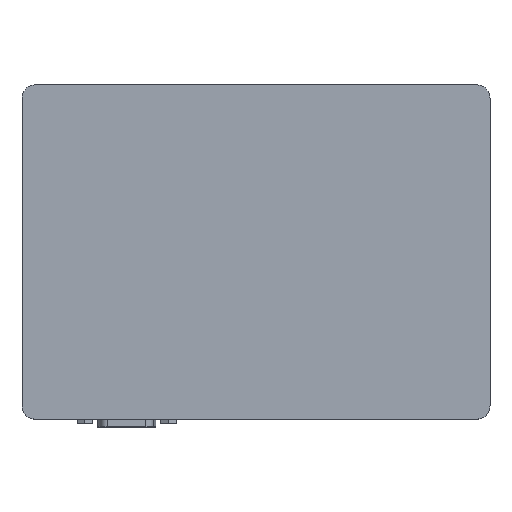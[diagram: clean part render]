
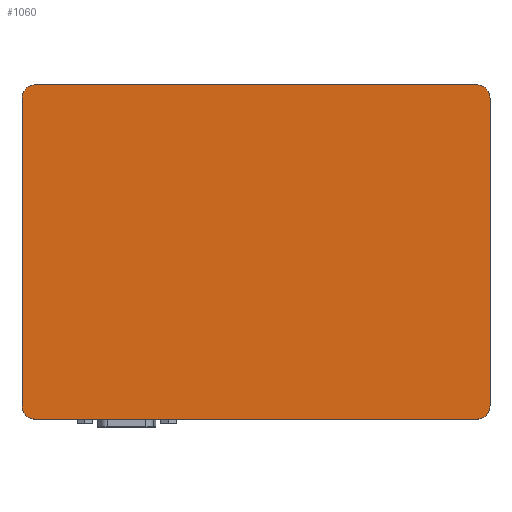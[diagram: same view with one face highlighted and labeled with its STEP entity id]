
A CAD part, front view. The second image highlights one B-rep face of the part: STEP entity #1060.
In plain terms, the highlighted planar face has unit normal (0, -1, 0).
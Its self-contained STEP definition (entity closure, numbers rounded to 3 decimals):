
#1060=ADVANCED_FACE('',(#2699),#2701,.F.);
#2699=FACE_BOUND('',#2700,.T.);
#2700=EDGE_LOOP('',(#4027,#4028,#4029,#4030,#4031,#4032,#4033,#4034));
#2701=PLANE('',#2702);
#2702=AXIS2_PLACEMENT_3D('',#2703,#2704,#2705);
#2703=CARTESIAN_POINT('',(0.,0.,0.));
#2704=DIRECTION('',(0.,1.,0.));
#2705=DIRECTION('',(0.,0.,1.));
#4027=ORIENTED_EDGE('',*,*,#4670,.F.);
#4028=ORIENTED_EDGE('',*,*,#4711,.F.);
#4029=ORIENTED_EDGE('',*,*,#4708,.F.);
#4030=ORIENTED_EDGE('',*,*,#4704,.F.);
#4031=ORIENTED_EDGE('',*,*,#4702,.F.);
#4032=ORIENTED_EDGE('',*,*,#4698,.F.);
#4033=ORIENTED_EDGE('',*,*,#4696,.F.);
#4034=ORIENTED_EDGE('',*,*,#4672,.F.);
#4670=EDGE_CURVE('',#5265,#5267,#5268,.T.);
#4672=EDGE_CURVE('',#5267,#5270,#5271,.T.);
#4696=EDGE_CURVE('',#5270,#5317,#5318,.T.);
#4698=EDGE_CURVE('',#5317,#5320,#5321,.T.);
#4702=EDGE_CURVE('',#5320,#5327,#5328,.T.);
#4704=EDGE_CURVE('',#5327,#5330,#5331,.T.);
#4708=EDGE_CURVE('',#5330,#5337,#5338,.T.);
#4711=EDGE_CURVE('',#5337,#5265,#5341,.T.);
#5265=VERTEX_POINT('',#8142);
#5267=VERTEX_POINT('',#8146);
#5268=CIRCLE('',#8147,4.);
#5270=VERTEX_POINT('',#8154);
#5271=LINE('',#8155,#8156);
#5317=VERTEX_POINT('',#8264);
#5318=CIRCLE('',#8265,4.);
#5320=VERTEX_POINT('',#8272);
#5321=LINE('',#8273,#8274);
#5327=VERTEX_POINT('',#8288);
#5328=CIRCLE('',#8289,4.);
#5330=VERTEX_POINT('',#8296);
#5331=LINE('',#8297,#8298);
#5337=VERTEX_POINT('',#8312);
#5338=CIRCLE('',#8313,4.);
#5341=LINE('',#8323,#8324);
#8142=CARTESIAN_POINT('',(70.,0.,-46.));
#8146=CARTESIAN_POINT('',(66.,0.,-50.));
#8147=AXIS2_PLACEMENT_3D('',#8148,#8149,#8150);
#8148=CARTESIAN_POINT('',(66.,0.,-46.));
#8149=DIRECTION('',(0.,1.,0.));
#8150=DIRECTION('',(1.,0.,0.));
#8154=CARTESIAN_POINT('',(-66.,0.,-50.));
#8155=CARTESIAN_POINT('',(66.,0.,-50.));
#8156=VECTOR('',#8157,1.);
#8157=DIRECTION('',(-1.,0.,0.));
#8264=CARTESIAN_POINT('',(-70.,0.,-46.));
#8265=AXIS2_PLACEMENT_3D('',#8266,#8267,#8268);
#8266=CARTESIAN_POINT('',(-66.,0.,-46.));
#8267=DIRECTION('',(0.,1.,0.));
#8268=DIRECTION('',(0.,0.,-1.));
#8272=CARTESIAN_POINT('',(-70.,0.,46.));
#8273=CARTESIAN_POINT('',(-70.,0.,-46.));
#8274=VECTOR('',#8275,1.);
#8275=DIRECTION('',(0.,0.,1.));
#8288=CARTESIAN_POINT('',(-66.,0.,50.));
#8289=AXIS2_PLACEMENT_3D('',#8290,#8291,#8292);
#8290=CARTESIAN_POINT('',(-66.,0.,46.));
#8291=DIRECTION('',(0.,1.,0.));
#8292=DIRECTION('',(-1.,0.,0.));
#8296=CARTESIAN_POINT('',(66.,0.,50.));
#8297=CARTESIAN_POINT('',(-66.,0.,50.));
#8298=VECTOR('',#8299,1.);
#8299=DIRECTION('',(1.,0.,0.));
#8312=CARTESIAN_POINT('',(70.,0.,46.));
#8313=AXIS2_PLACEMENT_3D('',#8314,#8315,#8316);
#8314=CARTESIAN_POINT('',(66.,0.,46.));
#8315=DIRECTION('',(0.,1.,0.));
#8316=DIRECTION('',(0.,0.,1.));
#8323=CARTESIAN_POINT('',(70.,0.,46.));
#8324=VECTOR('',#8325,1.);
#8325=DIRECTION('',(0.,0.,-1.));
